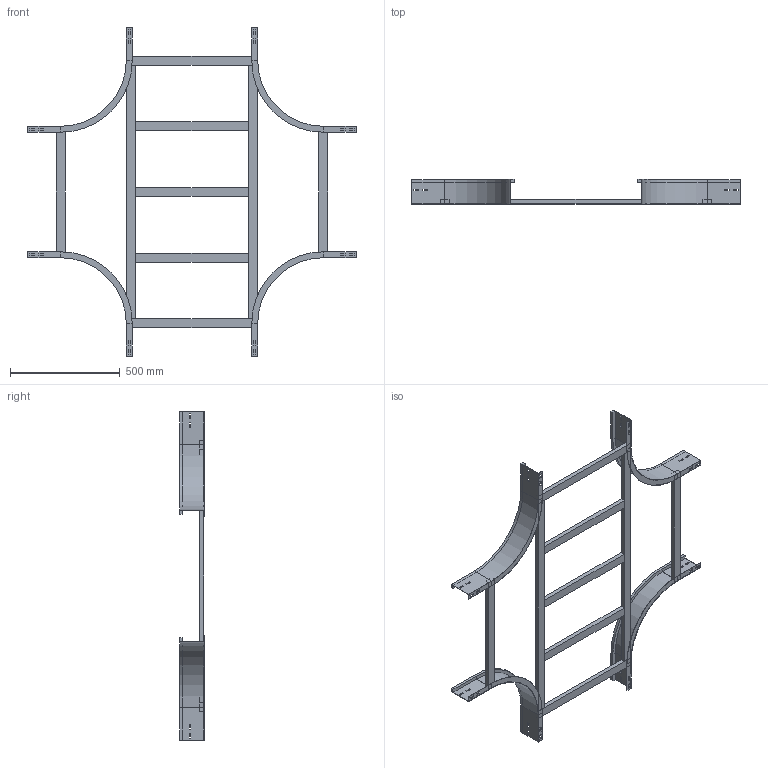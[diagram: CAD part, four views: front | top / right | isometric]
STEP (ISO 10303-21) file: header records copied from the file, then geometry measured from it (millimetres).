
FILE_DESCRIPTION (( 'STEP AP214' ), '1' );
FILE_NAME ('A2_17B3J600.step', '2025-02-21T15:56:50', ( '' ), ( '' ), 'SwSTEP 2.0', 'SolidWorks 2023', '' );
FILE_SCHEMA (( 'AUTOMOTIVE_DESIGN' ));
Length unit declared in the file: millimetre
Products named in the file (5): TRAVERSINO_600; A2_LONGH.INTERNO 90°_H112.5_R300; A2_17B3J600; TRAVERSINO_INTERMEDIO_R300+600; A2_TRAVERSINO_LONG._R300+600
Assembly tree (13 placements, depth 2):
  A2_17B3J600
    A2_LONGH.INTERNO 90°_H112.5_R300  x4
    TRAVERSINO_600  x4
    A2_TRAVERSINO_LONG._R300+600  x2
    TRAVERSINO_INTERMEDIO_R300+600  x3
Bounding box: 1500 x 112.5 x 1500 mm (x, y, z)
Volume: 6509731 mm3; surface area: 1737126.5 mm2
Topology: 13 solids, 13 shells, 286 faces, 716 edges, 456 vertices
Faces by surface type: plane 270, cylinder 16
Entity records: 2450 total; most frequent: CARTESIAN_POINT 400, DIRECTION 380, ORIENTED_EDGE 376, EDGE_CURVE 188, VECTOR 180, LINE 180, VERTEX_POINT 120, AXIS2_PLACEMENT_3D 100
